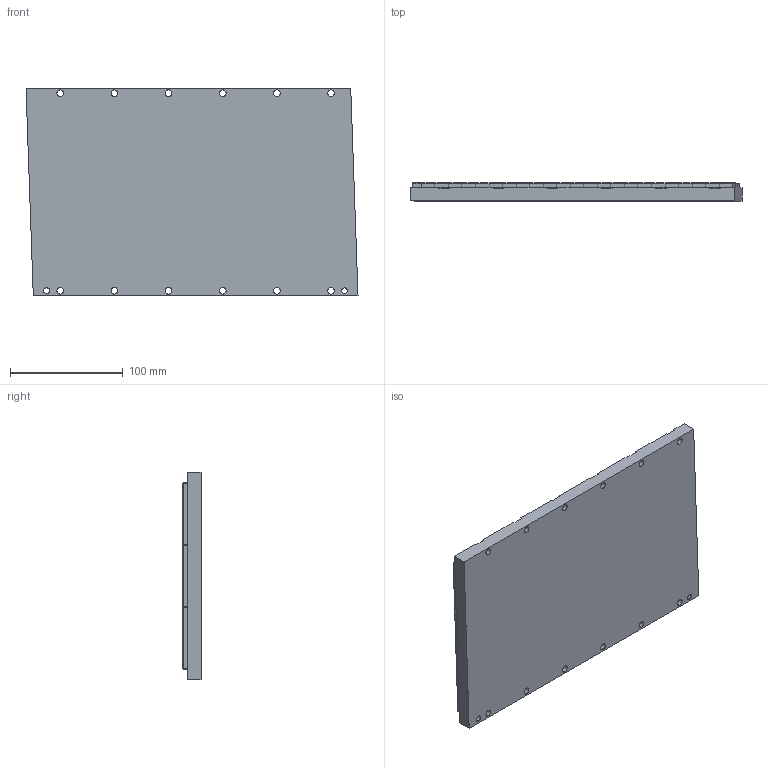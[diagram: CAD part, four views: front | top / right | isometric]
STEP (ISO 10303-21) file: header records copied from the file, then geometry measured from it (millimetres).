
FILE_DESCRIPTION (( 'STEP AP203' ), '1' );
FILE_NAME ('MP177-288.STEP', '2022-06-14T00:52:54', ( '' ), ( '' ), 'SwSTEP 2.0', 'SolidWorks 2021', '' );
FILE_SCHEMA (( 'CONFIG_CONTROL_DESIGN' ));
Length unit declared in the file: millimetre
Products named in the file (1): MP177-288
Bounding box: 294.28 x 16 x 184 mm (x, y, z)
Volume: 802627.1 mm3; surface area: 130075.1 mm2
Topology: 1 solids, 1 shells, 1337 faces, 3290 edges, 1650 vertices
Faces by surface type: cylinder 668, plane 347, sphere 322
Entity records: 36385 total; most frequent: DIRECTION 6984, CARTESIAN_POINT 6074, ORIENTED_EDGE 5968, EDGE_CURVE 2984, AXIS2_PLACEMENT_3D 2696, VERTEX_POINT 1650, LINE 1592, VECTOR 1592
